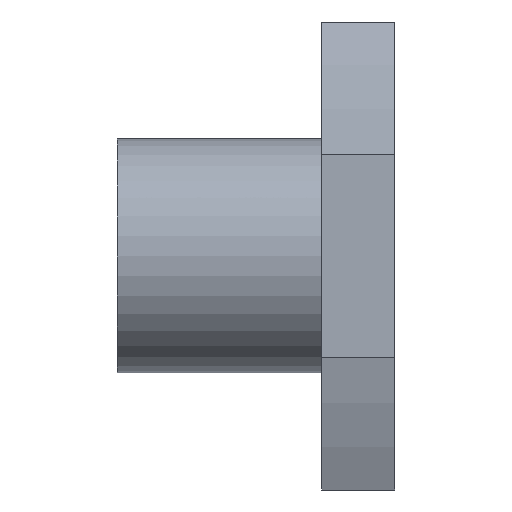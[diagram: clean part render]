
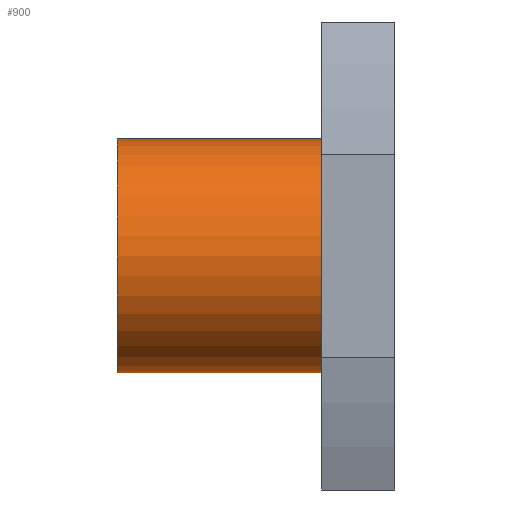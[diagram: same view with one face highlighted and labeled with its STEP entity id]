
A CAD part, left-side view. The second image highlights one B-rep face of the part: STEP entity #900.
In plain terms, the highlighted cylindrical face has radius 2 mm (diameter 4 mm), a full revolution.
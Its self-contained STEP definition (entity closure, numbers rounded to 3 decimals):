
#98 = PLANE('',#99);
#99 = AXIS2_PLACEMENT_3D('',#100,#101,#102);
#100 = CARTESIAN_POINT('',(-10.,-21.85,-34.));
#101 = DIRECTION('',(0.,1.,0.));
#102 = DIRECTION('',(0.,0.,1.));
#652 = EDGE_CURVE('',#653,#653,#655,.T.);
#653 = VERTEX_POINT('',#654);
#654 = CARTESIAN_POINT('',(2.,-21.85,-30.));
#655 = SURFACE_CURVE('',#656,(#661,#672),.PCURVE_S1.);
#656 = CIRCLE('',#657,2.);
#657 = AXIS2_PLACEMENT_3D('',#658,#659,#660);
#658 = CARTESIAN_POINT('',(0.,-21.85,-30.));
#659 = DIRECTION('',(0.,-1.,0.));
#660 = DIRECTION('',(1.,0.,0.));
#661 = PCURVE('',#98,#662);
#662 = DEFINITIONAL_REPRESENTATION('',(#663),#671);
#663 = ( BOUNDED_CURVE() B_SPLINE_CURVE(2,(#664,#665,#666,#667,#668,#669
,#670),.UNSPECIFIED.,.T.,.F.) B_SPLINE_CURVE_WITH_KNOTS((1,2,2,2,2,1),(
    -2.094,0.,2.094,4.189,6.283,
8.378),.UNSPECIFIED.) CURVE() GEOMETRIC_REPRESENTATION_ITEM() 
RATIONAL_B_SPLINE_CURVE((1.,0.5,1.,0.5,1.,0.5,1.)) REPRESENTATION_ITEM(
  '') );
#664 = CARTESIAN_POINT('',(4.,12.));
#665 = CARTESIAN_POINT('',(7.464,12.));
#666 = CARTESIAN_POINT('',(5.732,9.));
#667 = CARTESIAN_POINT('',(4.,6.));
#668 = CARTESIAN_POINT('',(2.268,9.));
#669 = CARTESIAN_POINT('',(0.536,12.));
#670 = CARTESIAN_POINT('',(4.,12.));
#671 = ( GEOMETRIC_REPRESENTATION_CONTEXT(2) 
PARAMETRIC_REPRESENTATION_CONTEXT() REPRESENTATION_CONTEXT('2D SPACE',''
  ) );
#672 = PCURVE('',#673,#678);
#673 = CYLINDRICAL_SURFACE('',#674,2.);
#674 = AXIS2_PLACEMENT_3D('',#675,#676,#677);
#675 = CARTESIAN_POINT('',(0.,-18.33,-30.));
#676 = DIRECTION('',(0.,-1.,0.));
#677 = DIRECTION('',(1.,0.,0.));
#678 = DEFINITIONAL_REPRESENTATION('',(#679),#683);
#679 = LINE('',#680,#681);
#680 = CARTESIAN_POINT('',(0.,3.52));
#681 = VECTOR('',#682,1.);
#682 = DIRECTION('',(1.,0.));
#683 = ( GEOMETRIC_REPRESENTATION_CONTEXT(2) 
PARAMETRIC_REPRESENTATION_CONTEXT() REPRESENTATION_CONTEXT('2D SPACE',''
  ) );
#900 = ADVANCED_FACE('',(#901),#673,.T.);
#901 = FACE_BOUND('',#902,.T.);
#902 = EDGE_LOOP('',(#903,#926,#927,#928));
#903 = ORIENTED_EDGE('',*,*,#904,.T.);
#904 = EDGE_CURVE('',#905,#653,#907,.T.);
#905 = VERTEX_POINT('',#906);
#906 = CARTESIAN_POINT('',(2.,-18.35,-30.));
#907 = SEAM_CURVE('',#908,(#912,#919),.PCURVE_S1.);
#908 = LINE('',#909,#910);
#909 = CARTESIAN_POINT('',(2.,-18.33,-30.));
#910 = VECTOR('',#911,1.);
#911 = DIRECTION('',(0.,-1.,0.));
#912 = PCURVE('',#673,#913);
#913 = DEFINITIONAL_REPRESENTATION('',(#914),#918);
#914 = LINE('',#915,#916);
#915 = CARTESIAN_POINT('',(6.283,-0.));
#916 = VECTOR('',#917,1.);
#917 = DIRECTION('',(0.,1.));
#918 = ( GEOMETRIC_REPRESENTATION_CONTEXT(2) 
PARAMETRIC_REPRESENTATION_CONTEXT() REPRESENTATION_CONTEXT('2D SPACE',''
  ) );
#919 = PCURVE('',#673,#920);
#920 = DEFINITIONAL_REPRESENTATION('',(#921),#925);
#921 = LINE('',#922,#923);
#922 = CARTESIAN_POINT('',(0.,-0.));
#923 = VECTOR('',#924,1.);
#924 = DIRECTION('',(0.,1.));
#925 = ( GEOMETRIC_REPRESENTATION_CONTEXT(2) 
PARAMETRIC_REPRESENTATION_CONTEXT() REPRESENTATION_CONTEXT('2D SPACE',''
  ) );
#926 = ORIENTED_EDGE('',*,*,#652,.F.);
#927 = ORIENTED_EDGE('',*,*,#904,.F.);
#928 = ORIENTED_EDGE('',*,*,#929,.T.);
#929 = EDGE_CURVE('',#905,#905,#930,.T.);
#930 = SURFACE_CURVE('',#931,(#936,#943),.PCURVE_S1.);
#931 = CIRCLE('',#932,2.);
#932 = AXIS2_PLACEMENT_3D('',#933,#934,#935);
#933 = CARTESIAN_POINT('',(0.,-18.35,-30.));
#934 = DIRECTION('',(0.,-1.,0.));
#935 = DIRECTION('',(1.,0.,0.));
#936 = PCURVE('',#673,#937);
#937 = DEFINITIONAL_REPRESENTATION('',(#938),#942);
#938 = LINE('',#939,#940);
#939 = CARTESIAN_POINT('',(0.,0.02));
#940 = VECTOR('',#941,1.);
#941 = DIRECTION('',(1.,0.));
#942 = ( GEOMETRIC_REPRESENTATION_CONTEXT(2) 
PARAMETRIC_REPRESENTATION_CONTEXT() REPRESENTATION_CONTEXT('2D SPACE',''
  ) );
#943 = PCURVE('',#944,#949);
#944 = PLANE('',#945);
#945 = AXIS2_PLACEMENT_3D('',#946,#947,#948);
#946 = CARTESIAN_POINT('',(-50.,-18.35,-80.));
#947 = DIRECTION('',(0.,1.,0.));
#948 = DIRECTION('',(0.,0.,1.));
#949 = DEFINITIONAL_REPRESENTATION('',(#950),#958);
#950 = ( BOUNDED_CURVE() B_SPLINE_CURVE(2,(#951,#952,#953,#954,#955,#956
,#957),.UNSPECIFIED.,.T.,.F.) B_SPLINE_CURVE_WITH_KNOTS((1,2,2,2,2,1),(
    -2.094,0.,2.094,4.189,6.283,
8.378),.UNSPECIFIED.) CURVE() GEOMETRIC_REPRESENTATION_ITEM() 
RATIONAL_B_SPLINE_CURVE((1.,0.5,1.,0.5,1.,0.5,1.)) REPRESENTATION_ITEM(
  '') );
#951 = CARTESIAN_POINT('',(50.,52.));
#952 = CARTESIAN_POINT('',(53.464,52.));
#953 = CARTESIAN_POINT('',(51.732,49.));
#954 = CARTESIAN_POINT('',(50.,46.));
#955 = CARTESIAN_POINT('',(48.268,49.));
#956 = CARTESIAN_POINT('',(46.536,52.));
#957 = CARTESIAN_POINT('',(50.,52.));
#958 = ( GEOMETRIC_REPRESENTATION_CONTEXT(2) 
PARAMETRIC_REPRESENTATION_CONTEXT() REPRESENTATION_CONTEXT('2D SPACE',''
  ) );
